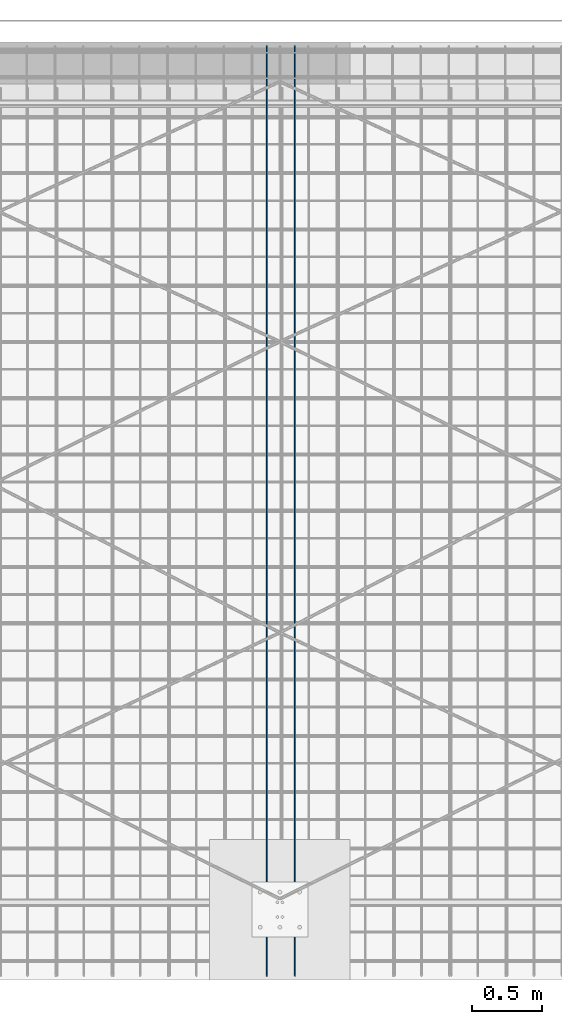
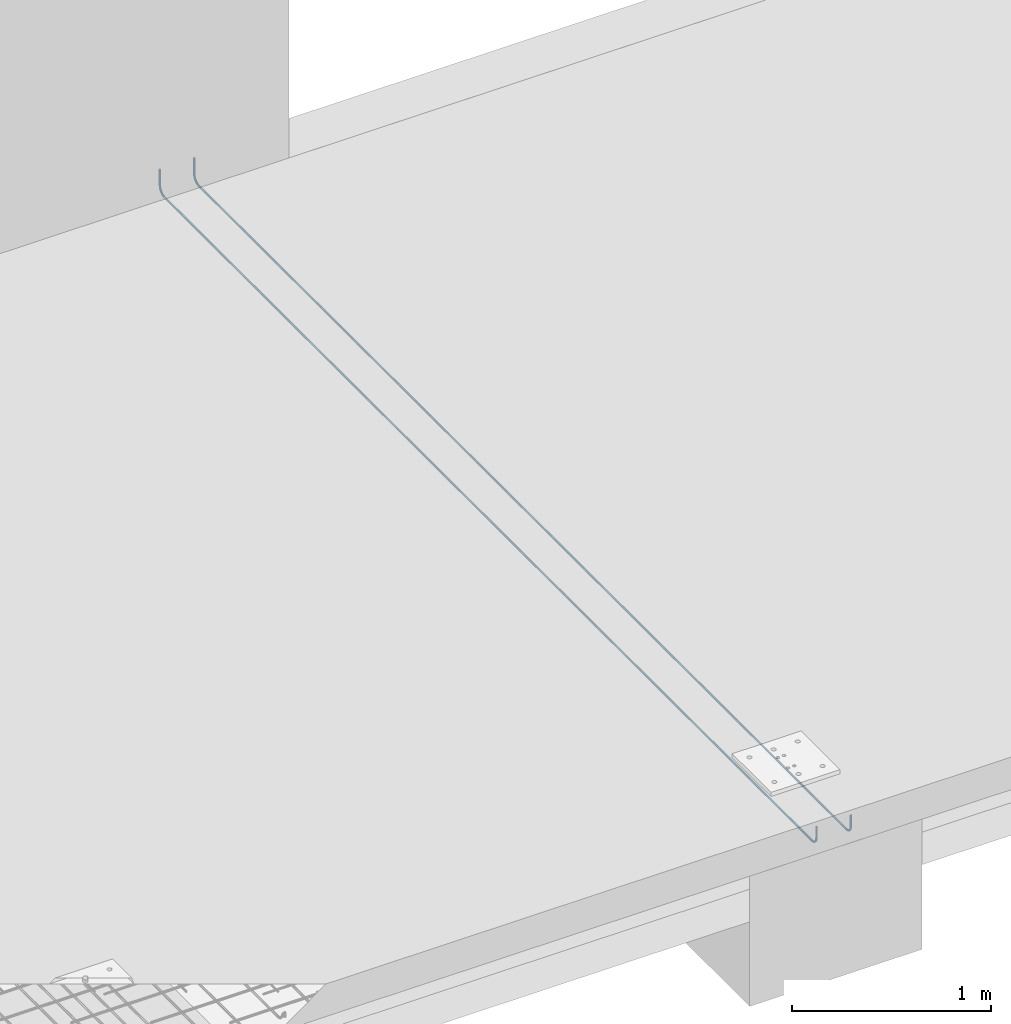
# One storey, part 4 of 8: 1 reinforcing bar.
"""IFC4X3_ADD2 building model written with IfcOpenShell, lengths in millimetres."""

from ifc_helpers import new_model, entity, si_unit, converted_unit, derived_unit, direction, frame, origin, place, context, subcontext, project, spatial, material, type_object, element, save


model = new_model("IFC4X3_ADD2")

# Units and contexts
model_context = context("Model", 3, precision=0.01, world=origin(), true_north=direction((6.123233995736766e-17, 1.0)))
plan_context = context("Plan", 3, precision=0.01, world=origin(), true_north=direction((6.123233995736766e-17, 1.0)))
body_context = subcontext(model_context, "Body", "Model", "MODEL_VIEW")
ifc_project = project(units=[si_unit("LENGTHUNIT", "METRE", prefix="MILLI"), converted_unit("PLANEANGLEUNIT", "DEGREE", entity("IfcPlaneAngleMeasure", 0.017453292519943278), si_unit("PLANEANGLEUNIT", "RADIAN"), dimensions=[0, 0, 0, 0, 0, 0, 0]), si_unit("AREAUNIT", "SQUARE_METRE"), si_unit("VOLUMEUNIT", "CUBIC_METRE"), derived_unit("THERMALTRANSMITTANCEUNIT", [(si_unit("MASSUNIT", "GRAM", prefix="KILO"), 1), (si_unit("THERMODYNAMICTEMPERATUREUNIT", "KELVIN"), -1), (si_unit("TIMEUNIT", "SECOND"), -3)]), derived_unit("USERDEFINED", [(si_unit("MASSUNIT", "GRAM", prefix="KILO"), 1), (si_unit("THERMODYNAMICTEMPERATUREUNIT", "KELVIN"), -1), (si_unit("TIMEUNIT", "SECOND"), -2)]), derived_unit("THERMALRESISTANCEUNIT", [(si_unit("MASSUNIT", "GRAM", prefix="KILO"), -1), (si_unit("TIMEUNIT", "SECOND"), 3), (si_unit("THERMODYNAMICTEMPERATUREUNIT", "KELVIN"), 1)]), si_unit("MASSUNIT", "GRAM", prefix="KILO"), derived_unit("MOMENTOFINERTIAUNIT", [(si_unit("LENGTHUNIT", "METRE"), 4)]), derived_unit("LINEARFORCEUNIT", [(si_unit("MASSUNIT", "GRAM", prefix="KILO"), 1), (si_unit("TIMEUNIT", "SECOND"), -2)]), derived_unit("WARPINGCONSTANTUNIT", [(si_unit("LENGTHUNIT", "METRE"), 6)]), si_unit("PRESSUREUNIT", "PASCAL"), derived_unit("MASSDENSITYUNIT", [(si_unit("MASSUNIT", "GRAM", prefix="KILO"), 1), (si_unit("LENGTHUNIT", "METRE"), -3)]), derived_unit("MODULUSOFELASTICITYUNIT", [(si_unit("MASSUNIT", "GRAM", prefix="KILO"), 1), (si_unit("TIMEUNIT", "SECOND"), -2), (si_unit("LENGTHUNIT", "METRE"), -1)]), derived_unit("THERMALEXPANSIONCOEFFICIENTUNIT", [(si_unit("THERMODYNAMICTEMPERATUREUNIT", "KELVIN"), -1)]), derived_unit("VAPORPERMEABILITYUNIT", [(si_unit("LENGTHUNIT", "METRE"), -1), (si_unit("TIMEUNIT", "SECOND"), 1)]), derived_unit("USERDEFINED", [(si_unit("MASSUNIT", "GRAM", prefix="KILO"), 1), (si_unit("TIMEUNIT", "SECOND"), -3), (si_unit("LENGTHUNIT", "METRE"), 3), (si_unit("ELECTRICCURRENTUNIT", "AMPERE"), -2)]), derived_unit("SPECIFICHEATCAPACITYUNIT", [(si_unit("THERMODYNAMICTEMPERATUREUNIT", "KELVIN"), -1), (si_unit("TIMEUNIT", "SECOND"), -2), (si_unit("LENGTHUNIT", "METRE"), 2)]), derived_unit("THERMALCONDUCTANCEUNIT", [(si_unit("MASSUNIT", "GRAM", prefix="KILO"), 1), (si_unit("THERMODYNAMICTEMPERATUREUNIT", "KELVIN"), -1), (si_unit("TIMEUNIT", "SECOND"), -3), (si_unit("LENGTHUNIT", "METRE"), 1)])], contexts=[model_context, plan_context])

# Site, building, storey
site_placement = place(None, origin())
site = spatial("IfcSite", under=ifc_project, at=site_placement, Name="Default", CompositionType="ELEMENT")
building_placement = place(site_placement, origin())
building = spatial("IfcBuilding", under=site, at=building_placement, Name="Complex structure", CompositionType="ELEMENT")
storey_placement = place(building_placement, frame((0.0, 0.0, -400.0)))
storey = spatial("IfcBuildingStorey", under=building, at=storey_placement, Name="Level -02", CompositionType="ELEMENT", Elevation=-400.0)

# Reinforcing bar
ifc_material = material(Name="Steel Rebar - B500A, B or C", Category="Unassigned")
reinforcing_bar_type = type_object("IfcReinforcingBarType", Name="Rebar Bar:12mm", PredefinedType="NOTDEFINED")
reinforcing_bar_placement = place(storey_placement, origin())
ifc_direction_1 = entity("IfcDirection", [1.0, 0.0, 0.0])
ifc_direction_2 = entity("IfcDirection", [1.0, 0.0, 0.0])
element("IfcReinforcingBar", 1, at=reinforcing_bar_placement, inside=storey, type_object=reinforcing_bar_type, material=ifc_material, Name="Rebar Bar:12mm : Shape 21", ObjectType="Rebar Bar:12mm", context=body_context, shape_type="AdvancedSweptSolid", body=[
    entity("IfcSweptDiskSolid", entity("IfcCompositeCurve", [entity("IfcCompositeCurveSegment", "CONTINUOUS", True, entity("IfcPolyline", [entity("IfcCartesianPoint", [-9239.221550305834, -1751.866703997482, 145.0]), entity("IfcCartesianPoint", [-9239.221550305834, -1751.866703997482, 77.0])])), entity("IfcCompositeCurveSegment", "CONTINUOUS", True, entity("IfcTrimmedCurve", entity("IfcCircle", entity("IfcAxis2Placement3D", entity("IfcCartesianPoint", [-9239.221550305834, -1705.866703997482, 77.0]), ifc_direction_1, entity("IfcDirection", [0.0, 0.0, -1.0])), 46.0), [entity("IfcParameterValue", 269.9999999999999)], [entity("IfcParameterValue", 360.00000000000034)], True, "PARAMETER")), entity("IfcCompositeCurveSegment", "CONTINUOUS", True, entity("IfcPolyline", [entity("IfcCartesianPoint", [-9239.221550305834, -1705.866703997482, 31.0]), entity("IfcCartesianPoint", [-9239.221550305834, 4811.133296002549, 31.0])])), entity("IfcCompositeCurveSegment", "CONTINUOUS", True, entity("IfcTrimmedCurve", entity("IfcCircle", entity("IfcAxis2Placement3D", entity("IfcCartesianPoint", [-9239.221550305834, 4811.133296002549, 77.0]), ifc_direction_1, entity("IfcDirection", [0.0, 1.0, 0.0])), 46.0), [entity("IfcParameterValue", 269.9999999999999)], [entity("IfcParameterValue", 360.00000000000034)], True, "PARAMETER")), entity("IfcCompositeCurveSegment", "CONTINUOUS", True, entity("IfcPolyline", [entity("IfcCartesianPoint", [-9239.221550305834, 4857.133296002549, 77.0]), entity("IfcCartesianPoint", [-9239.221550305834, 4857.133296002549, 175.0])]))], False), 6.0, None, 0.0, 183.00000000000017),
    entity("IfcSweptDiskSolid", entity("IfcCompositeCurve", [entity("IfcCompositeCurveSegment", "CONTINUOUS", True, entity("IfcPolyline", [entity("IfcCartesianPoint", [-9039.221550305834, -1751.866703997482, 145.0]), entity("IfcCartesianPoint", [-9039.221550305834, -1751.866703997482, 77.0])])), entity("IfcCompositeCurveSegment", "CONTINUOUS", True, entity("IfcTrimmedCurve", entity("IfcCircle", entity("IfcAxis2Placement3D", entity("IfcCartesianPoint", [-9039.221550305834, -1705.866703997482, 77.0]), ifc_direction_2, entity("IfcDirection", [0.0, 0.0, -1.0])), 46.0), [entity("IfcParameterValue", 269.9999999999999)], [entity("IfcParameterValue", 360.00000000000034)], True, "PARAMETER")), entity("IfcCompositeCurveSegment", "CONTINUOUS", True, entity("IfcPolyline", [entity("IfcCartesianPoint", [-9039.221550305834, -1705.866703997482, 31.0]), entity("IfcCartesianPoint", [-9039.221550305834, 4811.133296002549, 31.0])])), entity("IfcCompositeCurveSegment", "CONTINUOUS", True, entity("IfcTrimmedCurve", entity("IfcCircle", entity("IfcAxis2Placement3D", entity("IfcCartesianPoint", [-9039.221550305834, 4811.133296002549, 77.0]), ifc_direction_2, entity("IfcDirection", [0.0, 1.0, 0.0])), 46.0), [entity("IfcParameterValue", 269.9999999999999)], [entity("IfcParameterValue", 360.00000000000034)], True, "PARAMETER")), entity("IfcCompositeCurveSegment", "CONTINUOUS", True, entity("IfcPolyline", [entity("IfcCartesianPoint", [-9039.221550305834, 4857.133296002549, 77.0]), entity("IfcCartesianPoint", [-9039.221550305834, 4857.133296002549, 175.0])]))], False), 6.0, None, 0.0, 183.00000000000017),
])

save(model, "model.ifc")
